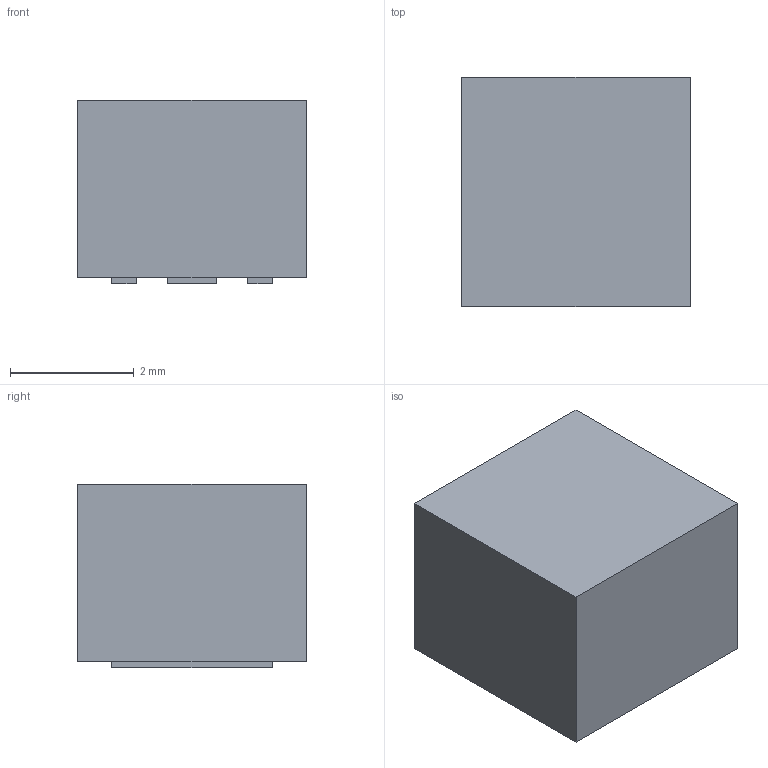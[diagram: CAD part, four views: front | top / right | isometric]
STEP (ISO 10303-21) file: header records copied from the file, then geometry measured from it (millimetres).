
FILE_DESCRIPTION(('FreeCAD Model'),'2;1');
FILE_NAME('/var/www/3D/0T/12674801.2.4.stp','2022-04-28T05:28:18',( 'Author'),(''),'Open CASCADE STEP processor 6.9','FreeCAD','Unknown' );
FILE_SCHEMA(('AUTOMOTIVE_DESIGN { 1 0 10303 214 1 1 1 1 }'));
Length unit declared in the file: millimetre
Products named in the file (3): ASSEMBLY; Body; Pins
Assembly tree (2 placements, depth 2):
  ASSEMBLY
    Body
    Pins
Bounding box: 3.7 x 3.7 x 2.97 mm (x, y, z)
Volume: 39.7 mm3; surface area: 79.9 mm2
Topology: 4 solids, 4 shells, 24 faces, 48 edges, 32 vertices
Faces by surface type: plane 24
Entity records: 1316 total; most frequent: CARTESIAN_POINT 203, DIRECTION 198, LINE 144, VECTOR 144, ORIENTED_EDGE 96, PCURVE 96, DEFINITIONAL_REPRESENTATION 96, EDGE_CURVE 48
